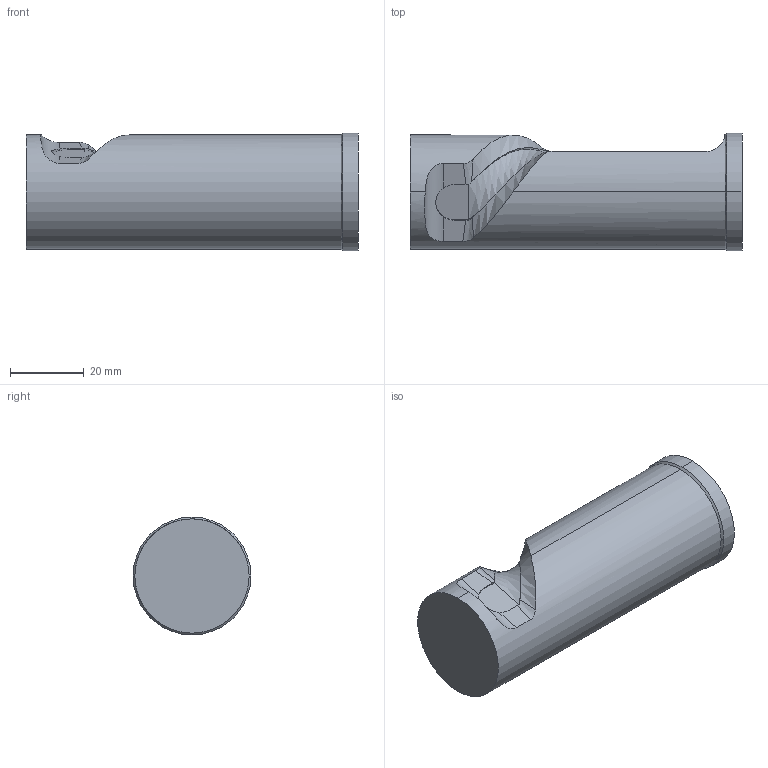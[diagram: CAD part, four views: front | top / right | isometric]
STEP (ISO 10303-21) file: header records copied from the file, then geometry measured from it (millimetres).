
FILE_DESCRIPTION (( 'STEP AP203' ), '1' );
FILE_NAME ('KOLBEN.STEP', '2012-01-31T12:06:52', ( 'Karius' ), ( 'Peters Werkzeug und Maschinenbau GmbH' ), 'SwSTEP 2.0', 'SolidWorks 2007', '' );
FILE_SCHEMA (( 'CONFIG_CONTROL_DESIGN' ));
Length unit declared in the file: millimetre
Products named in the file (1): KOLBEN
Bounding box: 90.1 x 32 x 32 mm (x, y, z)
Volume: 62556.3 mm3; surface area: 10389.6 mm2
Topology: 1 solids, 1 shells, 30 faces, 80 edges, 52 vertices
Faces by surface type: plane 11, bspline 9, cylinder 8, cone 2
Entity records: 1524 total; most frequent: CARTESIAN_POINT 787, ORIENTED_EDGE 160, DIRECTION 107, EDGE_CURVE 80, VERTEX_POINT 52, AXIS2_PLACEMENT_3D 39, EDGE_LOOP 30, ADVANCED_FACE 30
